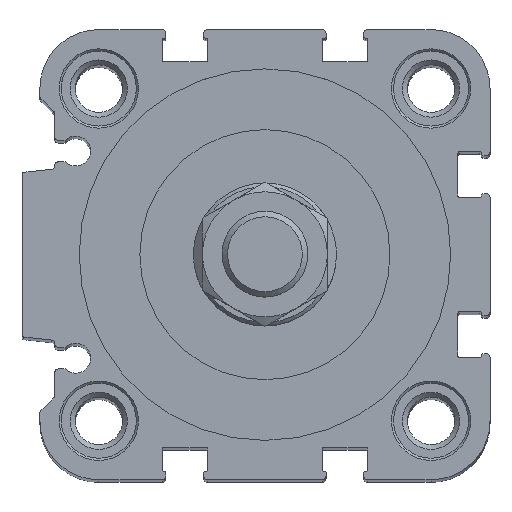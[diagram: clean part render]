
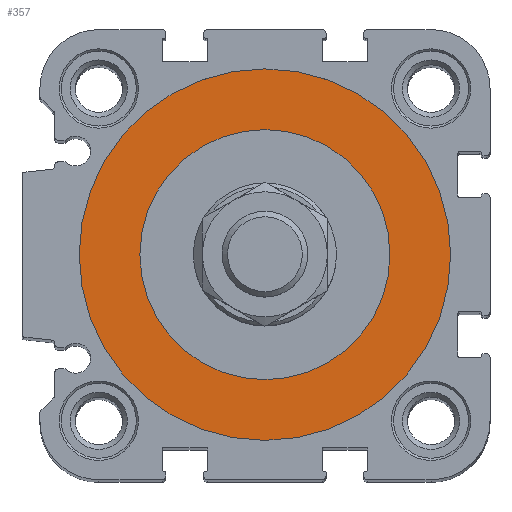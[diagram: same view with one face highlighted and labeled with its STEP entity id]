
A CAD part, top view. The second image highlights one B-rep face of the part: STEP entity #357.
In plain terms, the highlighted planar face has unit normal (0, 0, 1).
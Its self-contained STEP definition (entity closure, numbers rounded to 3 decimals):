
#357 = ADVANCED_FACE( '', ( #880, #881 ), #882, .T. );
#880 = FACE_BOUND( '', #1626, .T. );
#881 = FACE_OUTER_BOUND( '', #1627, .T. );
#882 = PLANE( '', #1628 );
#1626 = EDGE_LOOP( '', ( #2509 ) );
#1627 = EDGE_LOOP( '', ( #2510 ) );
#1628 = AXIS2_PLACEMENT_3D( '', #2511, #2512, #2513 );
#2509 = ORIENTED_EDGE( '', *, *, #4318, .F. );
#2510 = ORIENTED_EDGE( '', *, *, #4319, .T. );
#2511 = CARTESIAN_POINT( '', ( 0., 0., -2. ) );
#2512 = DIRECTION( '', ( 0., 0., 1. ) );
#2513 = DIRECTION( '', ( 1., 0., 0. ) );
#4318 = EDGE_CURVE( '', #5163, #5163, #5164, .T. );
#4319 = EDGE_CURVE( '', #5165, #5165, #5166, .T. );
#5163 = VERTEX_POINT( '', #6382 );
#5164 = CIRCLE( '', #6383, 17.5 );
#5165 = VERTEX_POINT( '', #6384 );
#5166 = CIRCLE( '', #6385, 26. );
#6382 = CARTESIAN_POINT( '', ( 17.5, 0., -2. ) );
#6383 = AXIS2_PLACEMENT_3D( '', #7738, #7739, #7740 );
#6384 = CARTESIAN_POINT( '', ( 26., 0., -2. ) );
#6385 = AXIS2_PLACEMENT_3D( '', #7741, #7742, #7743 );
#7738 = CARTESIAN_POINT( '', ( 0., 0., -2. ) );
#7739 = DIRECTION( '', ( 0., 0., 1. ) );
#7740 = DIRECTION( '', ( 1., 0., 0. ) );
#7741 = CARTESIAN_POINT( '', ( 0., 0., -2. ) );
#7742 = DIRECTION( '', ( 0., 0., 1. ) );
#7743 = DIRECTION( '', ( 1., 0., 0. ) );
